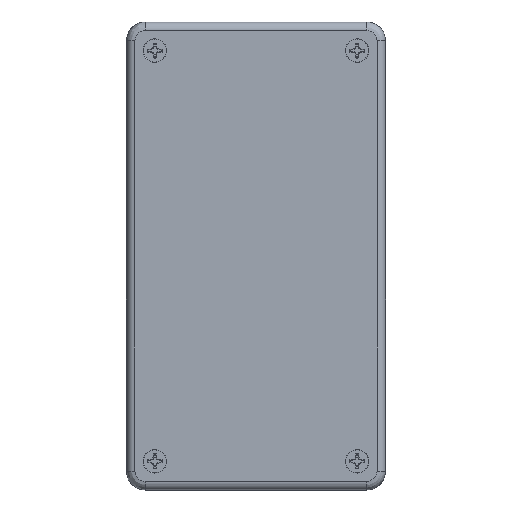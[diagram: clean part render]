
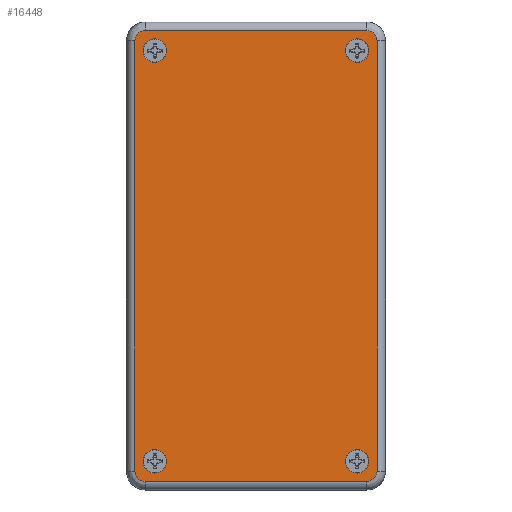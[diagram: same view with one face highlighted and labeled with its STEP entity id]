
A CAD part, top view. The second image highlights one B-rep face of the part: STEP entity #16448.
In plain terms, the highlighted planar face has unit normal (0, 0, 1) as drawn and (0, 0, -1) by its records, which use the part's own axes.
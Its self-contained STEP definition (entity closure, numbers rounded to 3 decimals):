
#840=FACE_BOUND('',#3340,.T.);
#841=FACE_BOUND('',#3341,.T.);
#842=FACE_BOUND('',#3342,.T.);
#843=FACE_BOUND('',#3343,.T.);
#1051=CIRCLE('',#17455,2.8);
#1052=CIRCLE('',#17456,2.8);
#1053=CIRCLE('',#17457,2.8);
#1054=CIRCLE('',#17458,2.8);
#1655=PLANE('',#17454);
#2395=FACE_OUTER_BOUND('',#3339,.T.);
#3339=EDGE_LOOP('',(#14603,#14604,#14605,#14606,#14607,#14608,#14609,#14610));
#3340=EDGE_LOOP('',(#14611));
#3341=EDGE_LOOP('',(#14612));
#3342=EDGE_LOOP('',(#14613));
#3343=EDGE_LOOP('',(#14614));
#3614=ELLIPSE('',#17432,2.501,2.5);
#3617=ELLIPSE('',#17436,2.501,2.5);
#3618=ELLIPSE('',#17442,2.501,2.5);
#3621=ELLIPSE('',#17446,2.501,2.5);
#5114=LINE('',#27208,#6667);
#5116=LINE('',#27276,#6669);
#5119=LINE('',#27283,#6672);
#5121=LINE('',#27346,#6674);
#6667=VECTOR('',#20771,102.937);
#6669=VECTOR('',#20791,52.937);
#6672=VECTOR('',#20798,52.937);
#6674=VECTOR('',#20814,102.937);
#8005=VERTEX_POINT('',#27205);
#8006=VERTEX_POINT('',#27207);
#8009=VERTEX_POINT('',#27238);
#8010=VERTEX_POINT('',#27267);
#8013=VERTEX_POINT('',#27274);
#8014=VERTEX_POINT('',#27279);
#8017=VERTEX_POINT('',#27310);
#8018=VERTEX_POINT('',#27339);
#8025=VERTEX_POINT('',#27366);
#8026=VERTEX_POINT('',#27368);
#8027=VERTEX_POINT('',#27370);
#8028=VERTEX_POINT('',#27372);
#10257=EDGE_CURVE('',#8005,#8006,#5114,.T.);
#10261=EDGE_CURVE('',#8009,#8005,#3614,.T.);
#10265=EDGE_CURVE('',#8006,#8010,#3617,.T.);
#10267=EDGE_CURVE('',#8013,#8009,#5116,.T.);
#10271=EDGE_CURVE('',#8010,#8014,#5119,.T.);
#10273=EDGE_CURVE('',#8017,#8013,#3618,.T.);
#10277=EDGE_CURVE('',#8014,#8018,#3621,.T.);
#10279=EDGE_CURVE('',#8018,#8017,#5121,.T.);
#10289=EDGE_CURVE('',#8025,#8025,#1051,.T.);
#10290=EDGE_CURVE('',#8026,#8026,#1052,.T.);
#10291=EDGE_CURVE('',#8027,#8027,#1053,.T.);
#10292=EDGE_CURVE('',#8028,#8028,#1054,.T.);
#14603=ORIENTED_EDGE('',*,*,#10257,.F.);
#14604=ORIENTED_EDGE('',*,*,#10261,.F.);
#14605=ORIENTED_EDGE('',*,*,#10267,.F.);
#14606=ORIENTED_EDGE('',*,*,#10273,.F.);
#14607=ORIENTED_EDGE('',*,*,#10279,.F.);
#14608=ORIENTED_EDGE('',*,*,#10277,.F.);
#14609=ORIENTED_EDGE('',*,*,#10271,.F.);
#14610=ORIENTED_EDGE('',*,*,#10265,.F.);
#14611=ORIENTED_EDGE('',*,*,#10289,.T.);
#14612=ORIENTED_EDGE('',*,*,#10290,.T.);
#14613=ORIENTED_EDGE('',*,*,#10291,.T.);
#14614=ORIENTED_EDGE('',*,*,#10292,.T.);
#16448=ADVANCED_FACE('',(#2395,#840,#841,#842,#843),#1655,.F.);
#17432=AXIS2_PLACEMENT_3D('',#27240,#20777,#20778);
#17436=AXIS2_PLACEMENT_3D('',#27271,#20785,#20786);
#17442=AXIS2_PLACEMENT_3D('',#27312,#20801,#20802);
#17446=AXIS2_PLACEMENT_3D('',#27343,#20809,#20810);
#17454=AXIS2_PLACEMENT_3D('',#27365,#20834,#20835);
#17455=AXIS2_PLACEMENT_3D('',#27367,#20836,#20837);
#17456=AXIS2_PLACEMENT_3D('',#27369,#20838,#20839);
#17457=AXIS2_PLACEMENT_3D('',#27371,#20840,#20841);
#17458=AXIS2_PLACEMENT_3D('',#27373,#20842,#20843);
#20771=DIRECTION('',(-1.,0.,0.));
#20777=DIRECTION('center_axis',(0.,0.,1.));
#20778=DIRECTION('ref_axis',(0.707,0.707,0.));
#20785=DIRECTION('center_axis',(0.,0.,1.));
#20786=DIRECTION('ref_axis',(-0.707,0.707,0.));
#20791=DIRECTION('',(0.,1.,0.));
#20798=DIRECTION('',(0.,-1.,0.));
#20801=DIRECTION('center_axis',(0.,0.,1.));
#20802=DIRECTION('ref_axis',(0.707,-0.707,0.));
#20809=DIRECTION('center_axis',(0.,0.,1.));
#20810=DIRECTION('ref_axis',(-0.707,-0.707,0.));
#20814=DIRECTION('',(1.,0.,0.));
#20834=DIRECTION('center_axis',(0.,0.,1.));
#20835=DIRECTION('ref_axis',(1.,0.,0.));
#20836=DIRECTION('center_axis',(0.,0.,1.));
#20837=DIRECTION('ref_axis',(1.,0.,0.));
#20838=DIRECTION('center_axis',(0.,0.,1.));
#20839=DIRECTION('ref_axis',(1.,0.,0.));
#20840=DIRECTION('center_axis',(0.,0.,1.));
#20841=DIRECTION('ref_axis',(1.,0.,0.));
#20842=DIRECTION('center_axis',(0.,0.,1.));
#20843=DIRECTION('ref_axis',(1.,0.,0.));
#27205=CARTESIAN_POINT('',(51.469,28.968,-3.8));
#27207=CARTESIAN_POINT('',(-51.469,28.968,-3.8));
#27208=CARTESIAN_POINT('',(28.,28.968,-3.8));
#27238=CARTESIAN_POINT('',(53.968,26.469,-3.8));
#27240=CARTESIAN_POINT('Origin',(51.468,26.468,-3.8));
#27267=CARTESIAN_POINT('',(-53.968,26.469,-3.8));
#27271=CARTESIAN_POINT('Origin',(-51.468,26.468,-3.8));
#27274=CARTESIAN_POINT('',(53.968,-26.469,-3.8));
#27276=CARTESIAN_POINT('',(53.968,-15.5,-3.8));
#27279=CARTESIAN_POINT('',(-53.968,-26.469,-3.8));
#27283=CARTESIAN_POINT('',(-53.968,15.5,-3.8));
#27310=CARTESIAN_POINT('',(51.469,-28.968,-3.8));
#27312=CARTESIAN_POINT('Origin',(51.468,-26.468,-3.8));
#27339=CARTESIAN_POINT('',(-51.469,-28.968,-3.8));
#27343=CARTESIAN_POINT('Origin',(-51.468,-26.468,-3.8));
#27346=CARTESIAN_POINT('',(-28.,-28.968,-3.8));
#27365=CARTESIAN_POINT('Origin',(0.,0.,-3.8));
#27366=CARTESIAN_POINT('',(-51.95,-24.2,-3.8));
#27367=CARTESIAN_POINT('Origin',(-49.15,-24.2,-3.8));
#27368=CARTESIAN_POINT('',(46.35,24.2,-3.8));
#27369=CARTESIAN_POINT('Origin',(49.15,24.2,-3.8));
#27370=CARTESIAN_POINT('',(-51.95,24.2,-3.8));
#27371=CARTESIAN_POINT('Origin',(-49.15,24.2,-3.8));
#27372=CARTESIAN_POINT('',(46.35,-24.2,-3.8));
#27373=CARTESIAN_POINT('Origin',(49.15,-24.2,-3.8));
